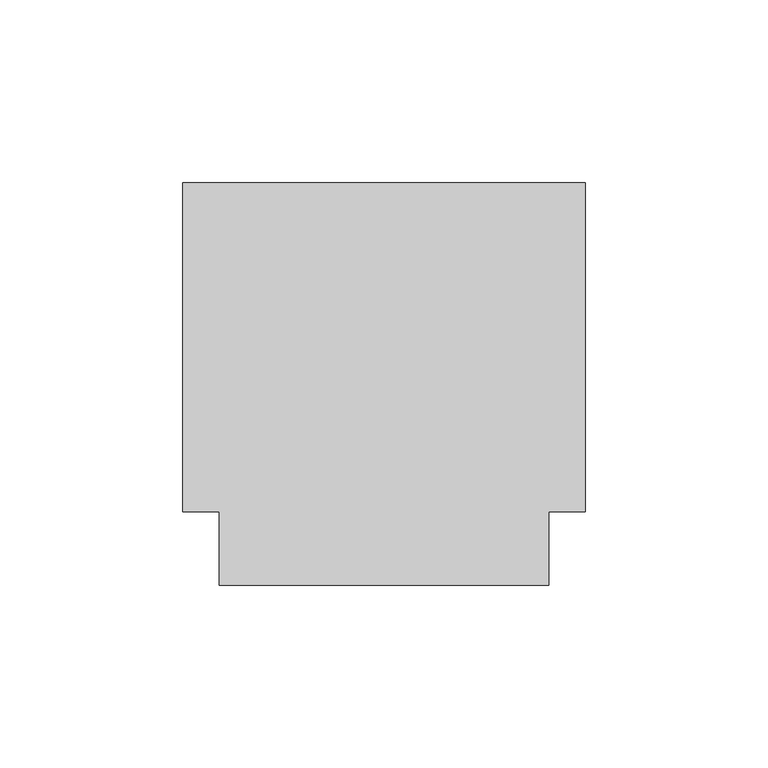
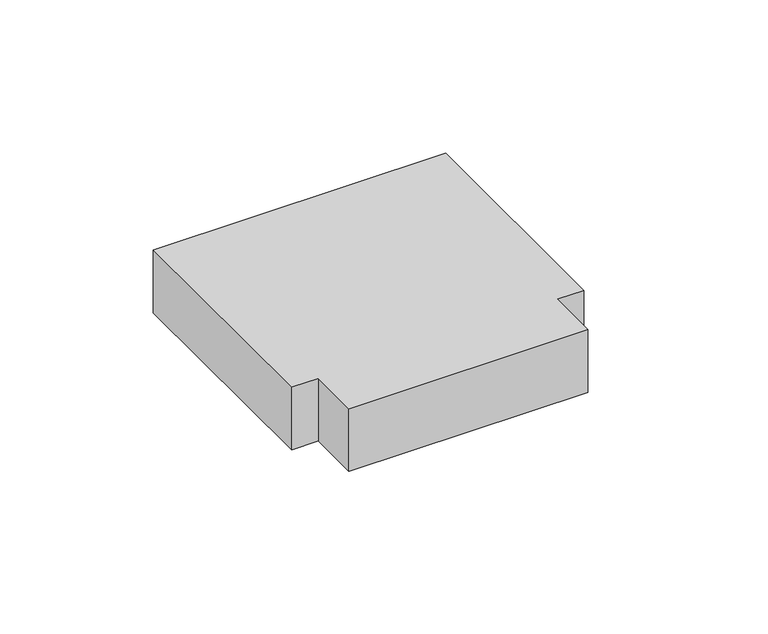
"""IFC4 building model written with IfcOpenShell, lengths in millimetres: cable carrier fitting geometry, КНС_Тройник_ILF_DKC : Белый."""

from ifc_helpers import new_model, si_unit, frame, origin, place, context, project, spatial, polyline, outline, extrude, faceted_brep, source, transform, mapped, element, save


def cable_carrier_fitting_1a116adf(model_context):
    return source(origin(), model_context, "Body", "SolidModel", [
        extrude(outline(polyline([(-45.0, -45.0), (-55.0, -45.0), (-55.0, 45.0), (55.0, 45.0), (55.0, -45.0), (45.0, -45.0), (45.0, -65.0), (-45.0, -65.0), (-45.0, -45.0)])), frame((0.0, 0.0, -12.5), z_axis=(0.0, 0.0, 1.0), x_axis=(1.0, 0.0, 0.0)), (0.0, 0.0, 1.0), 25.0),
        faceted_brep([(55.0, 42.46, -9.96), (-55.0, 42.46, -9.96), (-55.0, -42.46, -9.96), (-42.46, -42.46, -9.96), (-42.46, -65.0, -9.96), (42.46, -65.0, -9.96), (42.46, -42.46, -9.96), (55.0, -42.46, -9.96), (55.0, 45.0, -12.5), (55.0, -45.0, -12.5), (45.0, -45.0, -12.5), (45.0, -65.0, -12.5), (-45.0, -65.0, -12.5), (-45.0, -45.0, -12.5), (-55.0, -45.0, -12.5), (-55.0, 45.0, -12.5), (55.0, 45.0, 12.5), (55.0, 42.46, 12.5), (55.0, -42.46, 12.5), (55.0, -45.0, 12.5), (44.96, -45.0, 12.5), (45.0, -65.0, 12.5), (42.46, -65.0, 12.5), (-42.46, -65.0, 12.5), (-44.96, -65.0, 12.5), (-45.0, -45.0, 12.5), (-55.0, -45.0, 12.5), (-55.0, -42.46, 12.5), (-55.0, 42.46, 12.5), (-55.0, 45.0, 12.5), (42.46, -42.46, 12.5), (-42.46, -42.46, 12.5)], [[[0, 1, 2, 3, 4, 5, 6, 7]], [[8, 9, 10, 11, 12, 13, 14, 15]], [[8, 16, 17, 0, 7, 18, 19, 9]], [[19, 20, 10, 9]], [[20, 21, 11, 10]], [[21, 22, 5, 4, 23, 24, 12, 11]], [[24, 25, 13, 12]], [[25, 26, 14, 13]], [[26, 27, 2, 1, 28, 29, 15, 14]], [[29, 16, 8, 15]], [[20, 19, 18, 30, 22, 21]], [[25, 24, 23, 31, 27, 26]], [[29, 28, 17, 16]], [[31, 3, 2, 27]], [[23, 4, 3, 31]], [[30, 6, 5, 22]], [[18, 7, 6, 30]], [[28, 1, 0, 17]]]),
    ])


if __name__ == "__main__":
    model = new_model("IFC4")
    model_context = context("Model", 3, world=origin())
    ifc_project = project(units=[si_unit("LENGTHUNIT", "METRE", prefix="MILLI")], contexts=[model_context])
    site = spatial("IfcSite", under=ifc_project)
    building = spatial("IfcBuilding", under=site)
    placement = place(None, origin())
    cable_carrier_fitting_shape = cable_carrier_fitting_1a116adf(model_context)
    element("IfcCableCarrierFitting", 1, ObjectType="КНС_Тройник_ILF_DKC : Белый", at=placement, inside=building, context=model_context, shape_type="MappedRepresentation", body=[
        mapped(cable_carrier_fitting_shape, transform((0.0, 0.0, 0.0), x_axis=(1.0, 0.0, 0.0), y_axis=(0.0, 1.0, 0.0), z_axis=(0.0, 0.0, 1.0))),
    ])
    save(model, "model.ifc")
